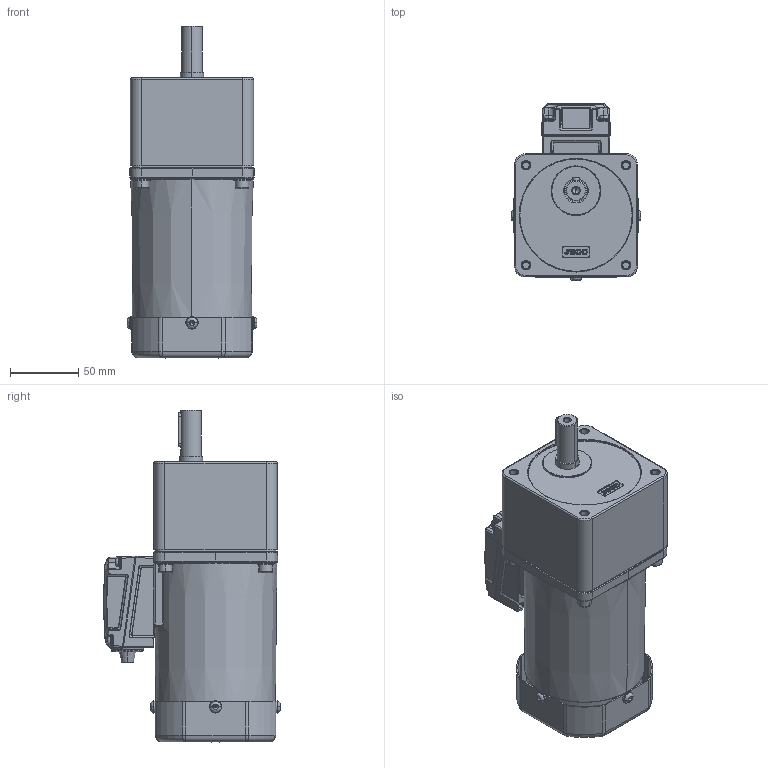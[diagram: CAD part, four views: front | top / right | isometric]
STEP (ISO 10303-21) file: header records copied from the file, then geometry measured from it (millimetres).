
FILE_DESCRIPTION( ('This file contains a STEP AP42 implementation' ,'as created by ZW3D STEP Interface translator.' ,'') ,'2;1' );
FILE_NAME( '90ys01-180.stp' ,'24 712.1039 8', (''), ('ZWCAD Software Co.'), 'Version 1.0', 'ZW3D to STEP translator', '' );
FILE_SCHEMA(('AUTOMOTIVE_DESIGN { 1 0 10303 214 1 1 1 1 }'));
Length unit declared in the file: millimetre
Products named in the file (10): 0; 90ys01-180; 90YS9G_ASM_1; 90YS90G_1; YCX_6-200_1; 90YS90G_2; 3D-JXH-150_300; 90GK-H-180_ASM; 90GK-H-180_1; 90GK-H-180_2
Assembly tree (8 placements, depth 3):
  0
  90ys01-180
    90YS9G_ASM_1
      90YS90G_1
      YCX_6-200_1
      90YS90G_2
    3D-JXH-150_300
    90GK-H-180_ASM
      90GK-H-180_1
      90GK-H-180_2
Bounding box: 95.3 x 129.9 x 244 mm (x, y, z)
Volume: 1230325.1 mm3; surface area: 195370.5 mm2
Topology: 6 solids, 15 shells, 2398 faces, 5850 edges, 3555 vertices
Faces by surface type: cylinder 798, plane 702, bspline 655, torus 114, cone 107, sphere 22
Entity records: 119238 total; most frequent: CARTESIAN_POINT 66215, ORIENTED_EDGE 11660, DIRECTION 8929, EDGE_CURVE 5830, VERTEX_POINT 3555, AXIS2_PLACEMENT_3D 3436, EDGE_LOOP 2575, FACE_OUTER_BOUND 2398
